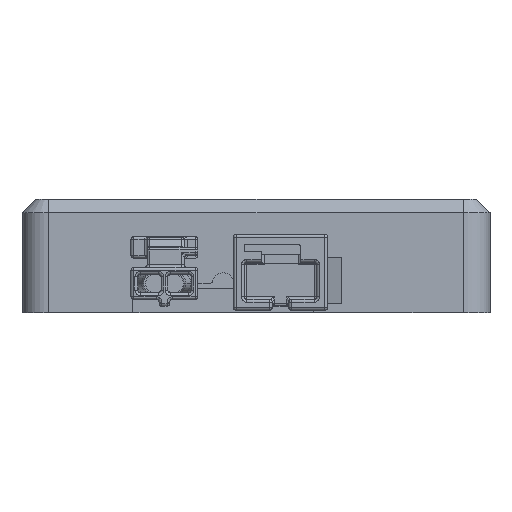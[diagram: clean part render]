
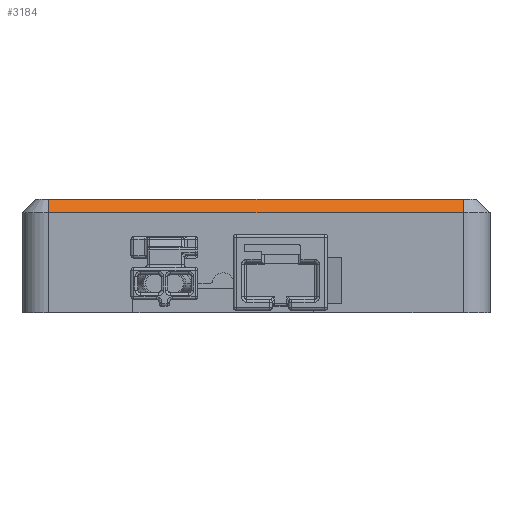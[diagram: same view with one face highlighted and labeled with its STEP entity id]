
A CAD part, front view. The second image highlights one B-rep face of the part: STEP entity #3184.
In plain terms, the highlighted planar face has unit normal (0, -0.707, 0.707).
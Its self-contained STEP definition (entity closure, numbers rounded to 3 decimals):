
#132 = LINE ( 'NONE', #5456, #15093 ) ;
#801 = ORIENTED_EDGE ( 'NONE', *, *, #10875, .F. ) ;
#876 = PLANE ( 'NONE',  #4351 ) ;
#1120 = CARTESIAN_POINT ( 'NONE',  ( 15.5, -16.5, 4.25 ) ) ;
#1200 = CARTESIAN_POINT ( 'NONE',  ( -15.5, -17.5, 3.25 ) ) ;
#1306 = EDGE_CURVE ( 'NONE', #3518, #1813, #132, .T. ) ;
#1326 = ORIENTED_EDGE ( 'NONE', *, *, #15972, .F. ) ;
#1813 = VERTEX_POINT ( 'NONE', #1200 ) ;
#1924 = CARTESIAN_POINT ( 'NONE',  ( -15.5, -16.5, 4.25 ) ) ;
#2998 = DIRECTION ( 'NONE',  ( -1., 0., 0. ) ) ;
#3168 = CARTESIAN_POINT ( 'NONE',  ( 15.5, -17.5, 3.25 ) ) ;
#3184 = ADVANCED_FACE ( 'NONE', ( #8243 ), #876, .F. ) ;
#3518 = VERTEX_POINT ( 'NONE', #3168 ) ;
#3894 = ORIENTED_EDGE ( 'NONE', *, *, #12568, .F. ) ;
#4231 = CARTESIAN_POINT ( 'NONE',  ( -15.5, -16.5, 4.25 ) ) ;
#4351 = AXIS2_PLACEMENT_3D ( 'NONE', #12325, #8554, #16000 ) ;
#5456 = CARTESIAN_POINT ( 'NONE',  ( -15.5, -17.5, 3.25 ) ) ;
#5879 = CARTESIAN_POINT ( 'NONE',  ( -15.5, -17.5, 3.25 ) ) ;
#6116 = DIRECTION ( 'NONE',  ( 0., -0.707, -0.707 ) ) ;
#6881 = VERTEX_POINT ( 'NONE', #4231 ) ;
#6911 = EDGE_LOOP ( 'NONE', ( #1326, #12086, #3894, #801 ) ) ;
#6914 = DIRECTION ( 'NONE',  ( 1., 0., 0. ) ) ;
#7032 = VECTOR ( 'NONE', #10859, 1000. ) ;
#8243 = FACE_OUTER_BOUND ( 'NONE', #6911, .T. ) ;
#8411 = CARTESIAN_POINT ( 'NONE',  ( 15.5, -16.5, 4.25 ) ) ;
#8554 = DIRECTION ( 'NONE',  ( 0., 0.707, -0.707 ) ) ;
#10859 = DIRECTION ( 'NONE',  ( 0., 0.707, 0.707 ) ) ;
#10875 = EDGE_CURVE ( 'NONE', #6881, #11589, #13204, .T. ) ;
#11589 = VERTEX_POINT ( 'NONE', #8411 ) ;
#12086 = ORIENTED_EDGE ( 'NONE', *, *, #1306, .F. ) ;
#12325 = CARTESIAN_POINT ( 'NONE',  ( -15.5, -16.5, 4.25 ) ) ;
#12336 = LINE ( 'NONE', #1120, #15989 ) ;
#12568 = EDGE_CURVE ( 'NONE', #11589, #3518, #12336, .T. ) ;
#13204 = LINE ( 'NONE', #1924, #13337 ) ;
#13337 = VECTOR ( 'NONE', #6914, 1000. ) ;
#13478 = LINE ( 'NONE', #5879, #7032 ) ;
#15093 = VECTOR ( 'NONE', #2998, 1000. ) ;
#15972 = EDGE_CURVE ( 'NONE', #1813, #6881, #13478, .T. ) ;
#15989 = VECTOR ( 'NONE', #6116, 1000. ) ;
#16000 = DIRECTION ( 'NONE',  ( 1., 0., 0. ) ) ;
